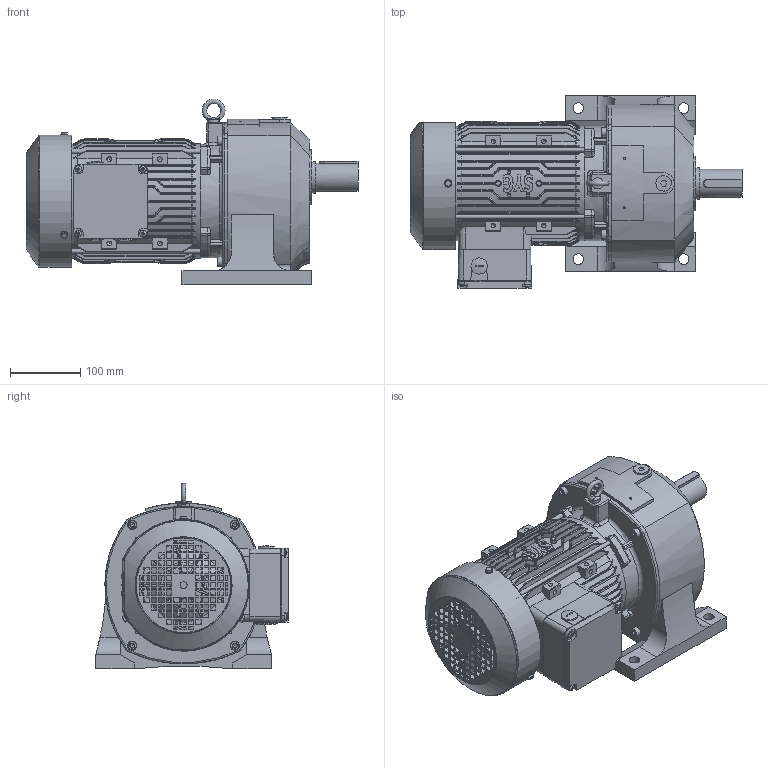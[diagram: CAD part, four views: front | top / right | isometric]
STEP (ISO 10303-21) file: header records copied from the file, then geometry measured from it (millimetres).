
FILE_DESCRIPTION(/* description */ (''),/* implementation_level */ '2;1');
FILE_NAME(/* name */ 'D:\▼ 3D：M2\00. 내부 직접 검토품\M2-153\외형도용 - ASS''Y\SK2\M21530A - OUTLINE (SK2，HT，1.5kW).stp',/* time_stamp */ '2026-05-18T11:52:42+09:00',/* author */ ('이정훈'),/* organization */ (''),/* preprocessor_version */ 'ST-DEVELOPER v18.1',/* originating_system */ 'Autodesk Inventor 2022',/* authorisation */ '');
FILE_SCHEMA (('AUTOMOTIVE_DESIGN { 1 0 10303 214 3 1 1 }'));
Length unit declared in the file: millimetre
Products named in the file (1): M21530A - OUTLINE (SK2，HT，1.5kW
)
Bounding box: 472.5 x 274 x 264.3 mm (x, y, z)
Volume: 11702935.9 mm3; surface area: 664604.3 mm2
Topology: 5 solids, 5 shells, 3823 faces, 10183 edges, 6398 vertices
Faces by surface type: plane 1730, cylinder 1051, bspline 729, cone 246, torus 49, sphere 18
Full cylindrical faces by diameter (mm): 2 x2, 3 x2, 4.8 x3, 5 x11, 6 x8, 6.4 x4, 6.8 x4, 9.5 x4, 10 x1, 10.5 x3, 12 x4, 13 x4, 15 x4, 22 x1, 23 x2, 25 x1, 26 x1, 33 x1, 37 x1, 38 x1, 40 x1, 43 x1, 45 x1, 52 x1, 78 x1, 101 x1, 163 x2
Entity records: 152787 total; most frequent: CARTESIAN_POINT 61313, ORIENTED_EDGE 20276, DIRECTION 17852, EDGE_CURVE 10138, VERTEX_POINT 6410, AXIS2_PLACEMENT_3D 6370, LINE 5112, VECTOR 5112
